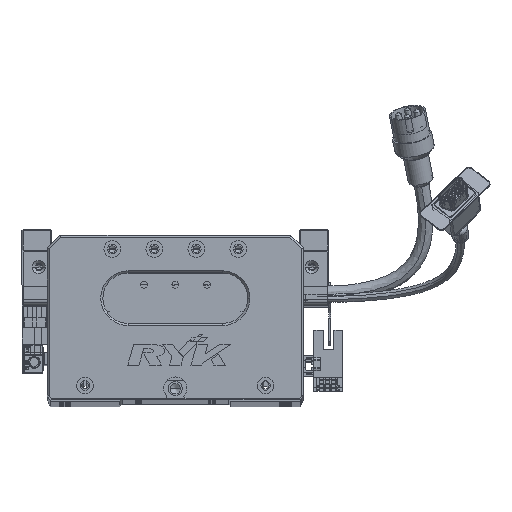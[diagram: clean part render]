
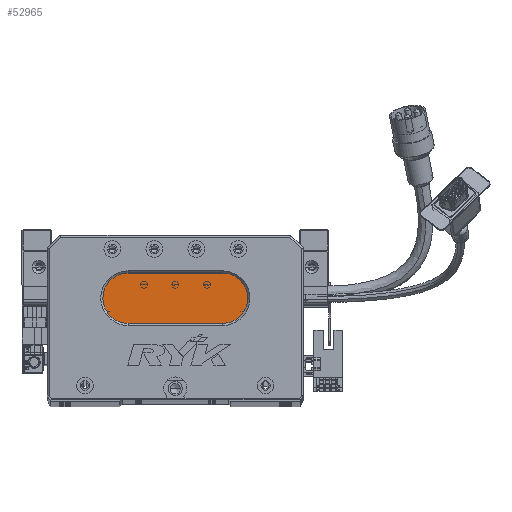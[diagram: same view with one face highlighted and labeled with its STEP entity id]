
A CAD part, top view. The second image highlights one B-rep face of the part: STEP entity #52965.
In plain terms, the highlighted planar face has unit normal (0, 0, 1) as drawn and (0, 0, -1) by its records, which use the part's own axes.
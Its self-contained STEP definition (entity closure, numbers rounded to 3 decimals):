
#4477 = VERTEX_POINT ( 'NONE', #69408 ) ;
#4716 = CARTESIAN_POINT ( 'NONE',  ( 38.5, 36., 13. ) ) ;
#6035 = CARTESIAN_POINT ( 'NONE',  ( 83.5, 60., 13. ) ) ;
#6507 = AXIS2_PLACEMENT_3D ( 'NONE', #90828, #97467, #52215 ) ;
#6867 = EDGE_CURVE ( 'NONE', #96738, #54797, #10116, .T. ) ;
#6977 = DIRECTION ( 'NONE',  ( 1., 0., 0. ) ) ;
#10116 = CIRCLE ( 'NONE', #77898, 12. ) ;
#13593 = EDGE_CURVE ( 'NONE', #4477, #96738, #59962, .T. ) ;
#13675 = ORIENTED_EDGE ( 'NONE', *, *, #92969, .T. ) ;
#17525 = CARTESIAN_POINT ( 'NONE',  ( 83.5, 48., 13. ) ) ;
#21859 = PLANE ( 'NONE',  #42968 ) ;
#21914 = CIRCLE ( 'NONE', #93969, 12. ) ;
#24365 = CIRCLE ( 'NONE', #6507, 12. ) ;
#24477 = DIRECTION ( 'NONE',  ( 0., 0., -1. ) ) ;
#27202 = CARTESIAN_POINT ( 'NONE',  ( 38.5, 48., 13. ) ) ;
#28719 = CARTESIAN_POINT ( 'NONE',  ( 83.5, 36., 13. ) ) ;
#31171 = CARTESIAN_POINT ( 'NONE',  ( 83.5, 36., 13. ) ) ;
#36452 = FACE_OUTER_BOUND ( 'NONE', #70583, .T. ) ;
#40134 = CARTESIAN_POINT ( 'NONE',  ( 83.5, 48., 13. ) ) ;
#42968 = AXIS2_PLACEMENT_3D ( 'NONE', #17525, #24477, #70292 ) ;
#47419 = EDGE_CURVE ( 'NONE', #69828, #68920, #24365, .T. ) ;
#49945 = DIRECTION ( 'NONE',  ( -1., 0., 0. ) ) ;
#52215 = DIRECTION ( 'NONE',  ( -1., 0., 0. ) ) ;
#52965 = ADVANCED_FACE ( 'NONE', ( #36452 ), #21859, .T. ) ;
#54797 = VERTEX_POINT ( 'NONE', #31171 ) ;
#54991 = DIRECTION ( 'NONE',  ( -1., 0., 0. ) ) ;
#59962 = LINE ( 'NONE', #97447, #75338 ) ;
#65996 = ORIENTED_EDGE ( 'NONE', *, *, #6867, .T. ) ;
#68920 = VERTEX_POINT ( 'NONE', #87491 ) ;
#69408 = CARTESIAN_POINT ( 'NONE',  ( 38.5, 60., 13. ) ) ;
#69828 = VERTEX_POINT ( 'NONE', #4716 ) ;
#70292 = DIRECTION ( 'NONE',  ( -1., 0., 0. ) ) ;
#70583 = EDGE_LOOP ( 'NONE', ( #65996, #13675, #92922, #94216, #95237 ) ) ;
#72537 = LINE ( 'NONE', #28719, #86716 ) ;
#75338 = VECTOR ( 'NONE', #6977, 1000. ) ;
#77200 = EDGE_CURVE ( 'NONE', #68920, #4477, #21914, .T. ) ;
#77898 = AXIS2_PLACEMENT_3D ( 'NONE', #40134, #78487, #54991 ) ;
#78487 = DIRECTION ( 'NONE',  ( 0., 0., -1. ) ) ;
#81572 = DIRECTION ( 'NONE',  ( -1., 0., 0. ) ) ;
#86716 = VECTOR ( 'NONE', #81572, 1000. ) ;
#87491 = CARTESIAN_POINT ( 'NONE',  ( 26.5, 48., 13. ) ) ;
#90828 = CARTESIAN_POINT ( 'NONE',  ( 38.5, 48., 13. ) ) ;
#92922 = ORIENTED_EDGE ( 'NONE', *, *, #47419, .T. ) ;
#92969 = EDGE_CURVE ( 'NONE', #54797, #69828, #72537, .T. ) ;
#93969 = AXIS2_PLACEMENT_3D ( 'NONE', #27202, #95162, #49945 ) ;
#94216 = ORIENTED_EDGE ( 'NONE', *, *, #77200, .T. ) ;
#95162 = DIRECTION ( 'NONE',  ( 0., 0., -1. ) ) ;
#95237 = ORIENTED_EDGE ( 'NONE', *, *, #13593, .T. ) ;
#96738 = VERTEX_POINT ( 'NONE', #6035 ) ;
#97447 = CARTESIAN_POINT ( 'NONE',  ( 83.5, 60., 13. ) ) ;
#97467 = DIRECTION ( 'NONE',  ( 0., 0., -1. ) ) ;
